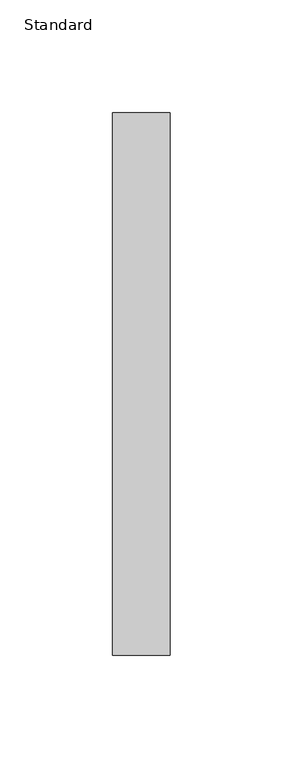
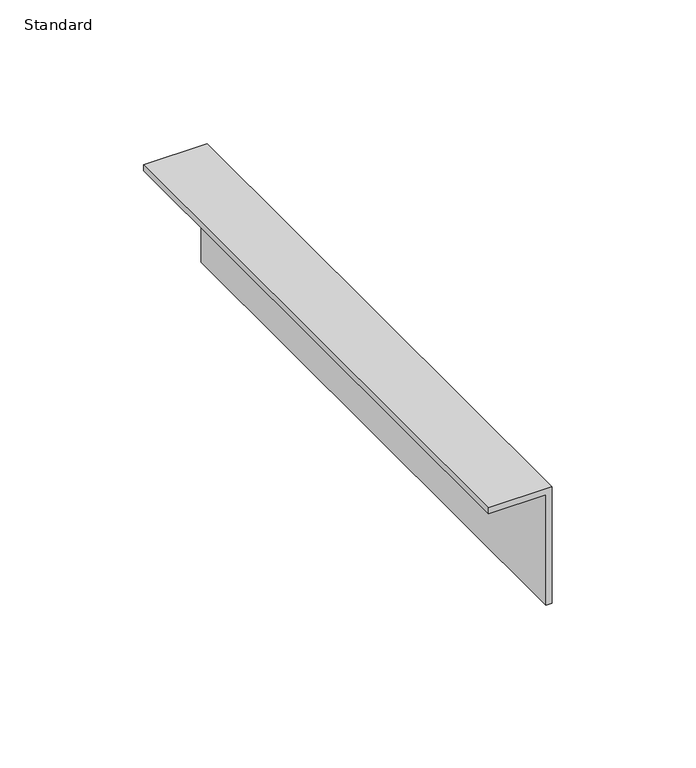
"""IFC4 building model written with IfcOpenShell, lengths in millimetres: cable carrier fitting geometry, End-Cablofil-Wire_Mesh_Cable_Tray : Standard."""

from ifc_helpers import new_model, si_unit, frame, origin, place, context, project, spatial, polyline, outline, extrude, source, transform, mapped, element, save


def standard_9af1a614(model_context):
    return source(origin(), model_context, "Body", "SweptSolid", [
        extrude(outline(polyline([(-16.5608, -23.0124), (-19.05, -23.0124), (-19.05, 0.0), (-66.0654, 0.0), (-66.0654, 2.4892), (-16.5608, 2.4892), (-16.5608, -23.0124)])), frame((0.0, -120.0546875, 0.0), z_axis=(0.0, 1.0, 0.0), x_axis=(0.0, 0.0, 1.0)), (0.0, 0.0, 1.0), 240.109375),
    ])


if __name__ == "__main__":
    model = new_model("IFC4")
    model_context = context("Model", 3, world=origin())
    ifc_project = project(units=[si_unit("LENGTHUNIT", "METRE", prefix="MILLI")], contexts=[model_context])
    site = spatial("IfcSite", under=ifc_project)
    building = spatial("IfcBuilding", under=site)
    placement = place(None, origin())
    standard_shape = standard_9af1a614(model_context)
    element("IfcCableCarrierFitting", 1, ObjectType="End-Cablofil-Wire_Mesh_Cable_Tray : Standard", at=placement, inside=building, context=model_context, shape_type="MappedRepresentation", body=[
        mapped(standard_shape, transform((0.0, 0.0, 0.0), x_axis=(1.0, 0.0, 0.0), y_axis=(0.0, 1.0, 0.0), z_axis=(0.0, 0.0, 1.0))),
    ])
    save(model, "model.ifc")
